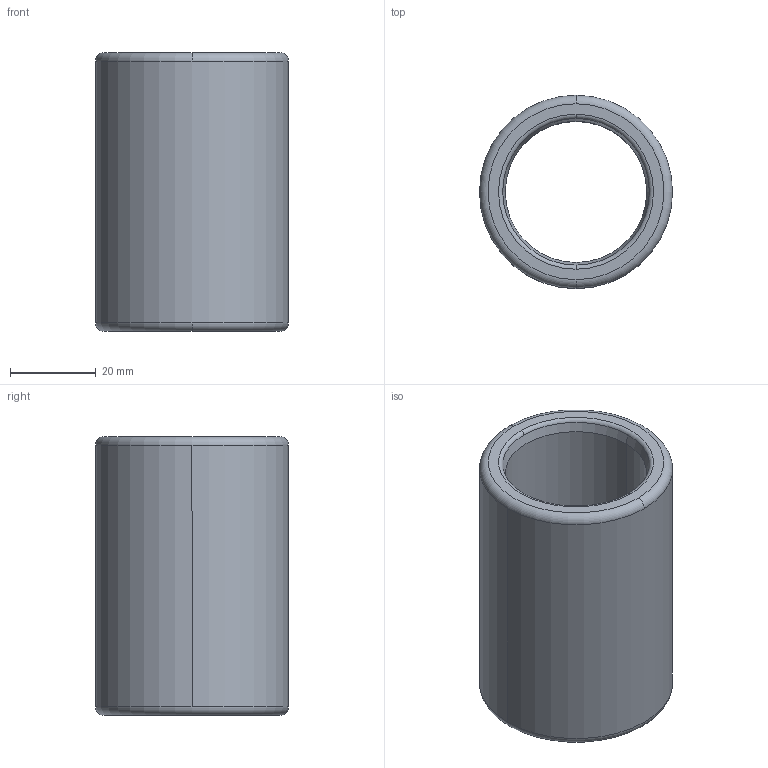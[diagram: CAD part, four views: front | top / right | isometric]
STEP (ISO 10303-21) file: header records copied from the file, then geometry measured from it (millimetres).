
FILE_DESCRIPTION((''),'2;1');
FILE_NAME('B30_025_065.stp','2009-01-12T09:58:44',(''),(''),'Mechanical Desktop 2009','Mechanical Desktop 2009',', , ');
FILE_SCHEMA(('CONFIG_CONTROL_DESIGN'));
Length unit declared in the file: millimetre
Products named in the file (2): Product; blmdl1
Assembly tree (1 placements, depth 2):
  Product
    blmdl1
Bounding box: 44.99 x 44.99 x 65 mm (x, y, z)
Volume: 47336.7 mm3; surface area: 16961 mm2
Topology: 1 solids, 1 shells, 18 faces, 48 edges, 32 vertices
Faces by surface type: torus 8, cylinder 4, cone 4, plane 2
Entity records: 705 total; most frequent: DIRECTION 128, CARTESIAN_POINT 100, ORIENTED_EDGE 96, AXIS2_PLACEMENT_3D 60, EDGE_CURVE 48, CIRCLE 40, VERTEX_POINT 32, EDGE_LOOP 20
